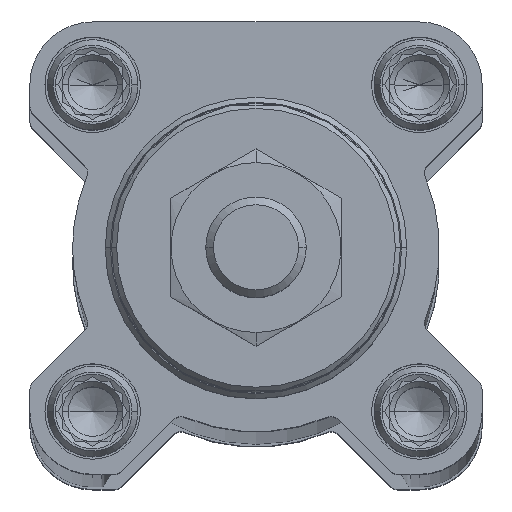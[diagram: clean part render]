
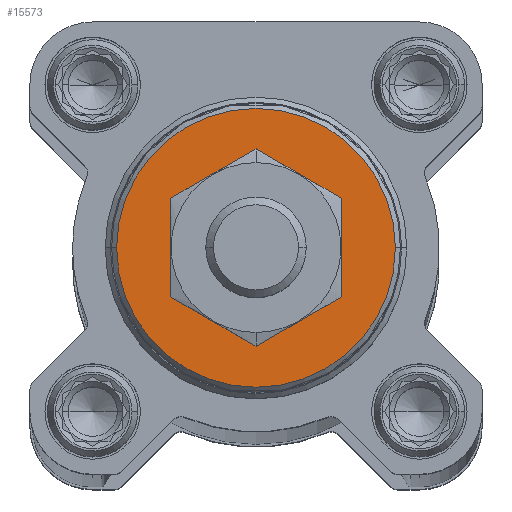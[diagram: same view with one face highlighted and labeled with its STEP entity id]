
A CAD part, top view. The second image highlights one B-rep face of the part: STEP entity #15573.
In plain terms, the highlighted planar face has unit normal (0, 0, 1).
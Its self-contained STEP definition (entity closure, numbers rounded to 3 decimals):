
#27 = VERTEX_POINT ( 'NONE', #9628 ) ;
#673 = DIRECTION ( 'NONE',  ( 0., 0., -1. ) ) ;
#693 = VERTEX_POINT ( 'NONE', #17849 ) ;
#714 = ORIENTED_EDGE ( 'NONE', *, *, #8212, .F. ) ;
#2117 = CARTESIAN_POINT ( 'NONE',  ( 0., 0., 18. ) ) ;
#2163 = CARTESIAN_POINT ( 'NONE',  ( 0., 0., 18. ) ) ;
#2720 = DIRECTION ( 'NONE',  ( 0., 0., -1. ) ) ;
#3661 = FACE_BOUND ( 'NONE', #14316, .T. ) ;
#3760 = PLANE ( 'NONE',  #14680 ) ;
#3781 = AXIS2_PLACEMENT_3D ( 'NONE', #2117, #6980, #15832 ) ;
#4116 = DIRECTION ( 'NONE',  ( -1., 0., 0. ) ) ;
#4309 = CARTESIAN_POINT ( 'NONE',  ( 0., 0., 18. ) ) ;
#4480 = AXIS2_PLACEMENT_3D ( 'NONE', #4309, #2720, #4116 ) ;
#5555 = ORIENTED_EDGE ( 'NONE', *, *, #13416, .T. ) ;
#5946 = CARTESIAN_POINT ( 'NONE',  ( -13.869, 0., 18. ) ) ;
#6452 = CIRCLE ( 'NONE', #19152, 13.869 ) ;
#6634 = DIRECTION ( 'NONE',  ( -1., 0., 0. ) ) ;
#6930 = DIRECTION ( 'NONE',  ( 0., -1., 0. ) ) ;
#6971 = CIRCLE ( 'NONE', #11738, 13.869 ) ;
#6980 = DIRECTION ( 'NONE',  ( 0., 0., -1. ) ) ;
#7773 = ORIENTED_EDGE ( 'NONE', *, *, #18622, .T. ) ;
#8212 = EDGE_CURVE ( 'NONE', #27, #14278, #6971, .T. ) ;
#9121 = VERTEX_POINT ( 'NONE', #12998 ) ;
#9283 = CARTESIAN_POINT ( 'NONE',  ( 0., 0., 18. ) ) ;
#9353 = EDGE_LOOP ( 'NONE', ( #19575, #714 ) ) ;
#9628 = CARTESIAN_POINT ( 'NONE',  ( 13.869, 0., 18. ) ) ;
#9724 = FACE_OUTER_BOUND ( 'NONE', #9353, .T. ) ;
#10572 = DIRECTION ( 'NONE',  ( -1., 0., 0. ) ) ;
#11014 = CARTESIAN_POINT ( 'NONE',  ( 0., 0., 18. ) ) ;
#11738 = AXIS2_PLACEMENT_3D ( 'NONE', #2163, #673, #6634 ) ;
#12998 = CARTESIAN_POINT ( 'NONE',  ( -6., 0., 18. ) ) ;
#13416 = EDGE_CURVE ( 'NONE', #9121, #693, #15278, .T. ) ;
#13934 = CIRCLE ( 'NONE', #3781, 6. ) ;
#14278 = VERTEX_POINT ( 'NONE', #5946 ) ;
#14316 = EDGE_LOOP ( 'NONE', ( #5555, #7773 ) ) ;
#14497 = DIRECTION ( 'NONE',  ( 0., 0., -1. ) ) ;
#14680 = AXIS2_PLACEMENT_3D ( 'NONE', #11014, #14497, #6930 ) ;
#15278 = CIRCLE ( 'NONE', #4480, 6. ) ;
#15573 = ADVANCED_FACE ( 'NONE', ( #9724, #3661 ), #3760, .F. ) ;
#15832 = DIRECTION ( 'NONE',  ( -1., 0., 0. ) ) ;
#16339 = EDGE_CURVE ( 'NONE', #14278, #27, #6452, .T. ) ;
#16542 = DIRECTION ( 'NONE',  ( 0., 0., -1. ) ) ;
#17849 = CARTESIAN_POINT ( 'NONE',  ( 6., 0., 18. ) ) ;
#18622 = EDGE_CURVE ( 'NONE', #693, #9121, #13934, .T. ) ;
#19152 = AXIS2_PLACEMENT_3D ( 'NONE', #9283, #16542, #10572 ) ;
#19575 = ORIENTED_EDGE ( 'NONE', *, *, #16339, .F. ) ;
